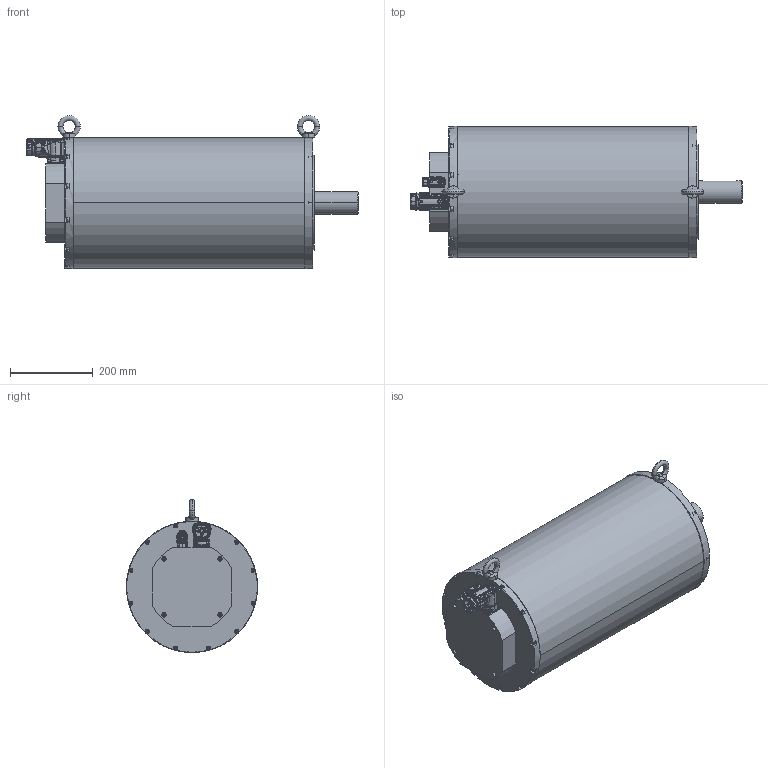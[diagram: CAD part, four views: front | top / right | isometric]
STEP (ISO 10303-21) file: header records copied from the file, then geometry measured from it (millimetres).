
FILE_DESCRIPTION(('CATIA V5 STEP Exchange'),'2;1');
FILE_NAME('C:\Documents and Settings\max\Documenti\sangallimotori\3d step\tg8\motore_DGM5_84.stp','2010-12-12T15:40:59+00:00',('none'),('none'),'CATIA Version 5 Release 10 (IN-8)','CATIA V5 STEP AP203',' none');
FILE_SCHEMA(('CONFIG_CONTROL_DESIGN'));
Length unit declared in the file: millimetre
Assembly tree (60 placements, depth 0):
Bounding box: 804.5 x 317.89 x 370.78 mm (x, y, z)
Volume: 49042507.8 mm3; surface area: 1324409.6 mm2
Topology: 56 solids, 60 shells, 5171 faces, 16780 edges, 11797 vertices
Faces by surface type: cylinder 1631, bspline 1305, plane 1101, cone 499, torus 484, sphere 151
Entity records: 266616 total; most frequent: CARTESIAN_POINT 168630, ORIENTED_EDGE 27214, EDGE_CURVE 13716, DIRECTION 10038, VERTEX_POINT 9919, B_SPLINE_CURVE_WITH_KNOTS 8134, AXIS2_PLACEMENT_3D 5023, EDGE_LOOP 4206
